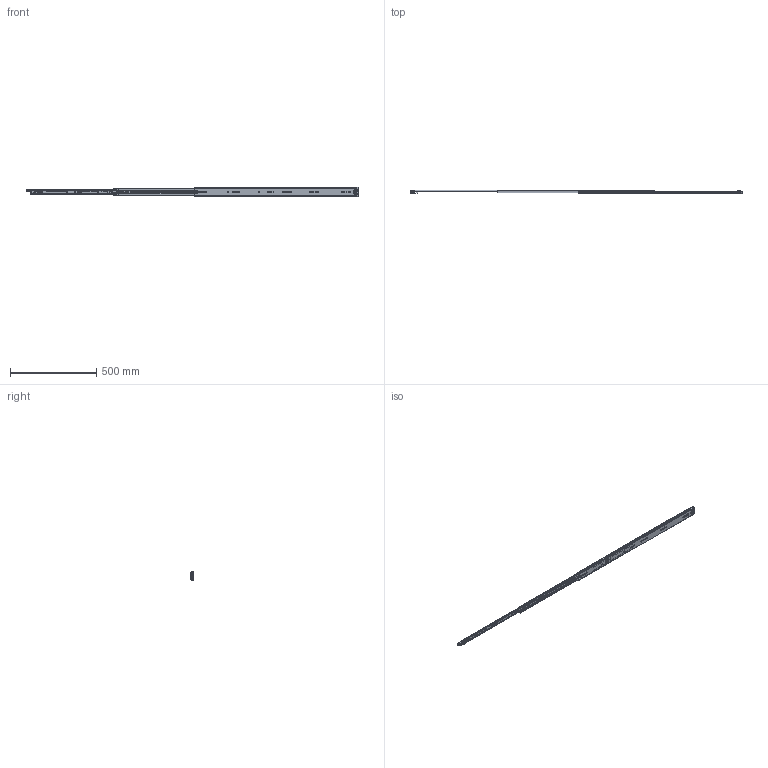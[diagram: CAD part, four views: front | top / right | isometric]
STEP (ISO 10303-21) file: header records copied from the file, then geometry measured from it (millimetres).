
FILE_DESCRIPTION((''),'2;1');
FILE_NAME('1053-3S-38YOU_ASM','2023-04-12T',('jishu015'),(''),'PRO/ENGINEER BY PARAMETRIC TECHNOLOGY CORPORATION, 2010280','PRO/ENGINEER BY PARAMETRIC TECHNOLOGY CORPORATION, 2010280','');
FILE_SCHEMA(('CONFIG_CONTROL_DESIGN'));
Products named in the file (20): 1053-02-18WAIKE______________; 1053WEIJIAO______________; 1053-3S-24WAIKE_______________ASM; 1053ZHUTIAO-175______________; 53-5-6GANZHU______________; 1053ZHUTIAO-175MM_______________ASM; 1053-02-18ZHONGGUI11; ZHONGGUIPEIJIAN____________; ZHONGGUISUOKOU____________; 1053-02-18ZHONGGUI11_ASM; 1053XIAOZHUJIA-14GE1_; 1053XIAOZHUJIA-14GE1__ASM; 1053-02-18NEIGUI______________; DAOPIAN__________; PIAN__________; 1053-3SBANJI123_________; JIAO-11_________; 50XINSUOKOU11________; 1053-02-18NEIGUI_______________ASM; 1053-3S-38YOU_ASM
Assembly tree (104 placements, depth 3):
  1053-3S-38YOU_ASM
    1053-3S-24WAIKE_______________ASM
      1053-02-18WAIKE______________
      1053WEIJIAO______________
    1053ZHUTIAO-175MM_______________ASM  x2
      1053ZHUTIAO-175______________
      53-5-6GANZHU______________
    1053-02-18ZHONGGUI11_ASM
      1053-02-18ZHONGGUI11
      ZHONGGUIPEIJIAN____________
      ZHONGGUISUOKOU____________
    1053XIAOZHUJIA-14GE1__ASM
      1053XIAOZHUJIA-14GE1_
      53-5-6GANZHU______________  x68
    1053-02-18NEIGUI_______________ASM
      1053-02-18NEIGUI______________
      DAOPIAN__________
      PIAN__________
      1053-3SBANJI123_________
      JIAO-11_________
      50XINSUOKOU11________
Bounding box: 1926.92 x 18.7 x 53 mm (x, y, z)
Volume: 363258.6 mm3; surface area: 421246.3 mm2
Topology: 117 solids, 117 shells, 2834 faces, 8223 edges, 5123 vertices
Faces by surface type: cylinder 1249, plane 1131, sphere 212, bspline 117, cone 86, extrusion 23, torus 16
Entity records: 90502 total; most frequent: CARTESIAN_POINT 21949, ORIENTED_EDGE 14548, DIRECTION 14107, EDGE_CURVE 7274, AXIS2_PLACEMENT_3D 4877, VERTEX_POINT 4701, VECTOR 4353, LINE 4330
